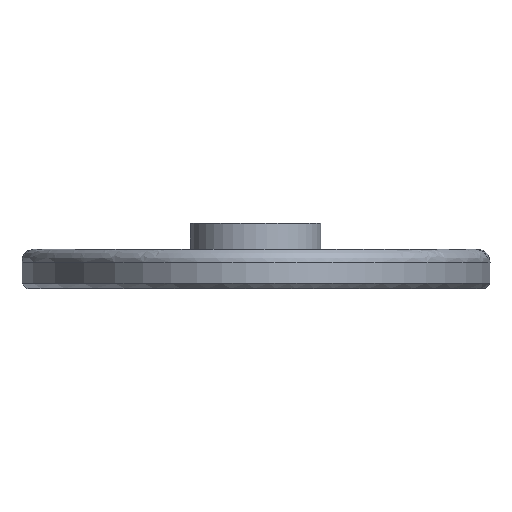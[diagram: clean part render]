
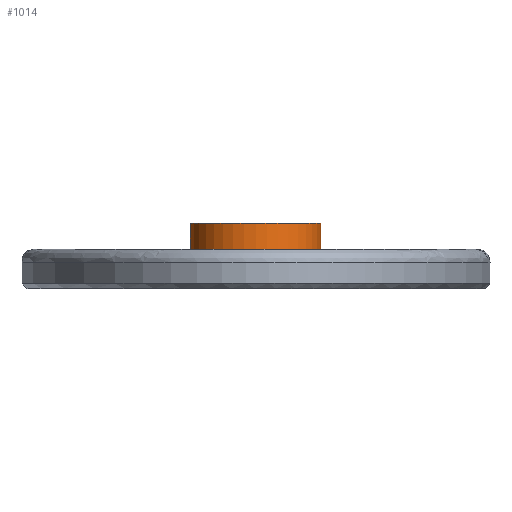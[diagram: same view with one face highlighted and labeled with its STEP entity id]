
A CAD part, front view. The second image highlights one B-rep face of the part: STEP entity #1014.
In plain terms, the highlighted cylindrical face has radius 2.5 mm (diameter 5 mm), a full revolution.
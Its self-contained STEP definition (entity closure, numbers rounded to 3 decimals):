
#665 = PLANE('',#666);
#666 = AXIS2_PLACEMENT_3D('',#667,#668,#669);
#667 = CARTESIAN_POINT('',(0.,0.976,1.5));
#668 = DIRECTION('',(0.,0.,1.));
#669 = DIRECTION('',(1.,0.,-0.));
#821 = EDGE_CURVE('',#822,#822,#824,.T.);
#822 = VERTEX_POINT('',#823);
#823 = CARTESIAN_POINT('',(2.5,0.,1.5));
#824 = SURFACE_CURVE('',#825,(#830,#837),.PCURVE_S1.);
#825 = CIRCLE('',#826,2.5);
#826 = AXIS2_PLACEMENT_3D('',#827,#828,#829);
#827 = CARTESIAN_POINT('',(0.,0.,1.5));
#828 = DIRECTION('',(0.,0.,1.));
#829 = DIRECTION('',(1.,0.,-0.));
#830 = PCURVE('',#665,#831);
#831 = DEFINITIONAL_REPRESENTATION('',(#832),#836);
#832 = CIRCLE('',#833,2.5);
#833 = AXIS2_PLACEMENT_2D('',#834,#835);
#834 = CARTESIAN_POINT('',(0.,-0.976));
#835 = DIRECTION('',(1.,0.));
#836 = ( GEOMETRIC_REPRESENTATION_CONTEXT(2) 
PARAMETRIC_REPRESENTATION_CONTEXT() REPRESENTATION_CONTEXT('2D SPACE',''
  ) );
#837 = PCURVE('',#838,#843);
#838 = CYLINDRICAL_SURFACE('',#839,2.5);
#839 = AXIS2_PLACEMENT_3D('',#840,#841,#842);
#840 = CARTESIAN_POINT('',(0.,0.,1.49));
#841 = DIRECTION('',(0.,0.,1.));
#842 = DIRECTION('',(1.,0.,-0.));
#843 = DEFINITIONAL_REPRESENTATION('',(#844),#848);
#844 = LINE('',#845,#846);
#845 = CARTESIAN_POINT('',(0.,0.01));
#846 = VECTOR('',#847,1.);
#847 = DIRECTION('',(1.,0.));
#848 = ( GEOMETRIC_REPRESENTATION_CONTEXT(2) 
PARAMETRIC_REPRESENTATION_CONTEXT() REPRESENTATION_CONTEXT('2D SPACE',''
  ) );
#925 = PLANE('',#926);
#926 = AXIS2_PLACEMENT_3D('',#927,#928,#929);
#927 = CARTESIAN_POINT('',(0.,0.,2.49));
#928 = DIRECTION('',(0.,0.,1.));
#929 = DIRECTION('',(1.,0.,-0.));
#1014 = ADVANCED_FACE('',(#1015),#838,.T.);
#1015 = FACE_BOUND('',#1016,.T.);
#1016 = EDGE_LOOP('',(#1017,#1040,#1062,#1063));
#1017 = ORIENTED_EDGE('',*,*,#1018,.T.);
#1018 = EDGE_CURVE('',#822,#1019,#1021,.T.);
#1019 = VERTEX_POINT('',#1020);
#1020 = CARTESIAN_POINT('',(2.5,0.,2.49));
#1021 = SEAM_CURVE('',#1022,(#1026,#1033),.PCURVE_S1.);
#1022 = LINE('',#1023,#1024);
#1023 = CARTESIAN_POINT('',(2.5,0.,1.49));
#1024 = VECTOR('',#1025,1.);
#1025 = DIRECTION('',(0.,0.,1.));
#1026 = PCURVE('',#838,#1027);
#1027 = DEFINITIONAL_REPRESENTATION('',(#1028),#1032);
#1028 = LINE('',#1029,#1030);
#1029 = CARTESIAN_POINT('',(6.283,-0.));
#1030 = VECTOR('',#1031,1.);
#1031 = DIRECTION('',(0.,1.));
#1032 = ( GEOMETRIC_REPRESENTATION_CONTEXT(2) 
PARAMETRIC_REPRESENTATION_CONTEXT() REPRESENTATION_CONTEXT('2D SPACE',''
  ) );
#1033 = PCURVE('',#838,#1034);
#1034 = DEFINITIONAL_REPRESENTATION('',(#1035),#1039);
#1035 = LINE('',#1036,#1037);
#1036 = CARTESIAN_POINT('',(0.,-0.));
#1037 = VECTOR('',#1038,1.);
#1038 = DIRECTION('',(0.,1.));
#1039 = ( GEOMETRIC_REPRESENTATION_CONTEXT(2) 
PARAMETRIC_REPRESENTATION_CONTEXT() REPRESENTATION_CONTEXT('2D SPACE',''
  ) );
#1040 = ORIENTED_EDGE('',*,*,#1041,.F.);
#1041 = EDGE_CURVE('',#1019,#1019,#1042,.T.);
#1042 = SURFACE_CURVE('',#1043,(#1048,#1055),.PCURVE_S1.);
#1043 = CIRCLE('',#1044,2.5);
#1044 = AXIS2_PLACEMENT_3D('',#1045,#1046,#1047);
#1045 = CARTESIAN_POINT('',(0.,0.,2.49));
#1046 = DIRECTION('',(0.,0.,1.));
#1047 = DIRECTION('',(1.,0.,-0.));
#1048 = PCURVE('',#838,#1049);
#1049 = DEFINITIONAL_REPRESENTATION('',(#1050),#1054);
#1050 = LINE('',#1051,#1052);
#1051 = CARTESIAN_POINT('',(0.,1.));
#1052 = VECTOR('',#1053,1.);
#1053 = DIRECTION('',(1.,0.));
#1054 = ( GEOMETRIC_REPRESENTATION_CONTEXT(2) 
PARAMETRIC_REPRESENTATION_CONTEXT() REPRESENTATION_CONTEXT('2D SPACE',''
  ) );
#1055 = PCURVE('',#925,#1056);
#1056 = DEFINITIONAL_REPRESENTATION('',(#1057),#1061);
#1057 = CIRCLE('',#1058,2.5);
#1058 = AXIS2_PLACEMENT_2D('',#1059,#1060);
#1059 = CARTESIAN_POINT('',(0.,0.));
#1060 = DIRECTION('',(1.,0.));
#1061 = ( GEOMETRIC_REPRESENTATION_CONTEXT(2) 
PARAMETRIC_REPRESENTATION_CONTEXT() REPRESENTATION_CONTEXT('2D SPACE',''
  ) );
#1062 = ORIENTED_EDGE('',*,*,#1018,.F.);
#1063 = ORIENTED_EDGE('',*,*,#821,.T.);
